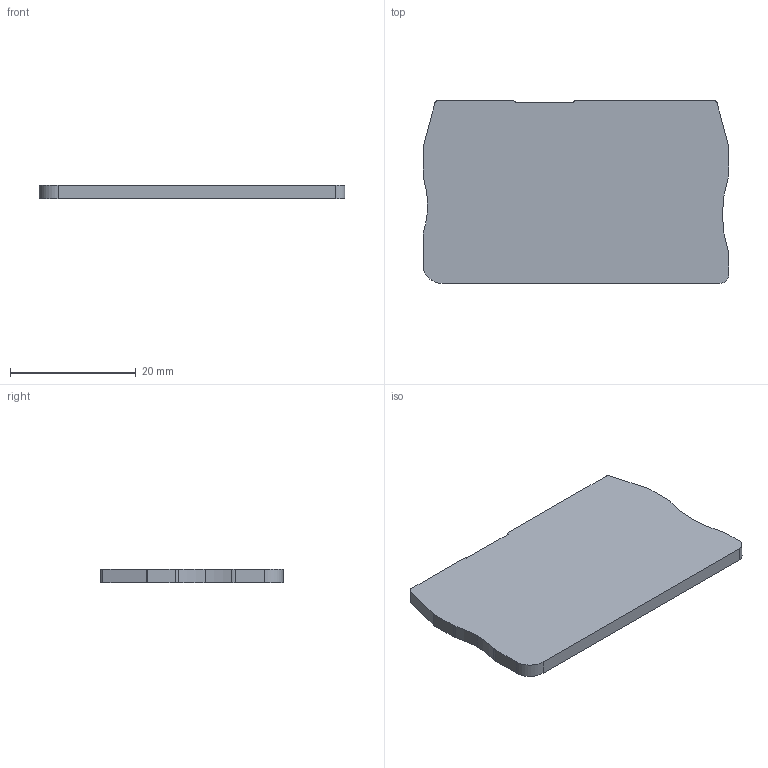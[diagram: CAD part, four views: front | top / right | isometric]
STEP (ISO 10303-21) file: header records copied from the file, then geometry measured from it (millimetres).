
FILE_DESCRIPTION( ('This file contains a STEP AP42 implementation' ,'as created by ZW3D STEP Interface translator.') ,'2;1' );
FILE_NAME( 'D-RPV2.5傷啣耀倰.stp' ,'221111.134817', (''), ('ZWCAD Software Co.'), 'Version 1.0', 'ZW3D to STEP translator', '' );
FILE_SCHEMA(('AUTOMOTIVE_DESIGN { 1 0 10303 214 1 1 1 1 }'));
Length unit declared in the file: millimetre
Products named in the file (2): 0; D-RPV2.5傷啣耀倰
Bounding box: 48.6 x 29.08 x 2.2 mm (x, y, z)
Volume: 3035.5 mm3; surface area: 3091.9 mm2
Topology: 1 solids, 1 shells, 28 faces, 78 edges, 52 vertices
Faces by surface type: cylinder 15, plane 12, bspline 1
Entity records: 984 total; most frequent: CARTESIAN_POINT 178, DIRECTION 164, ORIENTED_EDGE 156, EDGE_CURVE 78, AXIS2_PLACEMENT_3D 59, VERTEX_POINT 52, VECTOR 46, LINE 46
